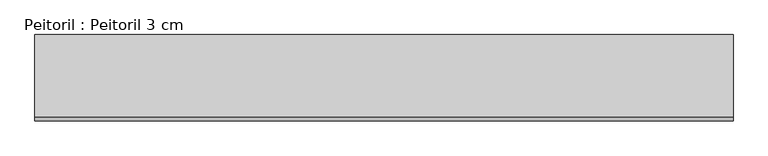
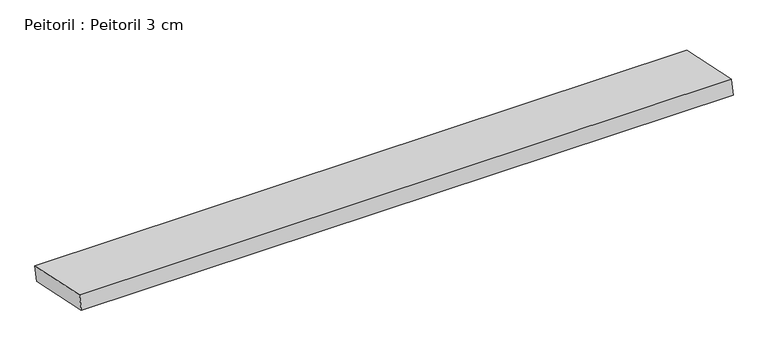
"""IFC4 building model written with IfcOpenShell, lengths in millimetres: proxy geometry, Peitoril : Peitoril 3 cm."""

from ifc_helpers import new_model, si_unit, frame, origin, place, context, project, spatial, polyline, outline, extrude, source, transform, mapped, element, save


def peitoril_peitoril_3_cm_9406f1cb(model_context):
    return source(origin(), model_context, "Body", "SweptSolid", [
        extrude(outline(polyline([(0.0, -158.0245115), (0.0, 0.0), (1300.0, 0.0), (1300.0, -158.0245115), (0.0, -158.0245115)])), frame((811.81445, -32.3195188, 880.655572), z_axis=(0.0, 0.20791169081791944, 0.9781476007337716), x_axis=(-1.0, 0.0, 0.0)), (0.0, 0.0, 1.0), 30.0),
    ])


if __name__ == "__main__":
    model = new_model("IFC4")
    model_context = context("Model", 3, world=origin())
    ifc_project = project(units=[si_unit("LENGTHUNIT", "METRE", prefix="MILLI")], contexts=[model_context])
    site = spatial("IfcSite", under=ifc_project)
    building = spatial("IfcBuilding", under=site)
    placement = place(None, origin())
    peitoril_peitoril_3_cm_shape = peitoril_peitoril_3_cm_9406f1cb(model_context)
    element("IfcBuildingElementProxy", 1, Name="Peitoril : Peitoril 3 cm", ObjectType="Peitoril : Peitoril 3 cm", at=placement, inside=building, context=model_context, shape_type="MappedRepresentation", body=[
        mapped(peitoril_peitoril_3_cm_shape, transform((0.0, 0.0, 0.0), x_axis=(1.0, 0.0, 0.0), y_axis=(0.0, 1.0, 0.0), z_axis=(0.0, 0.0, 1.0))),
    ])
    save(model, "model.ifc")
